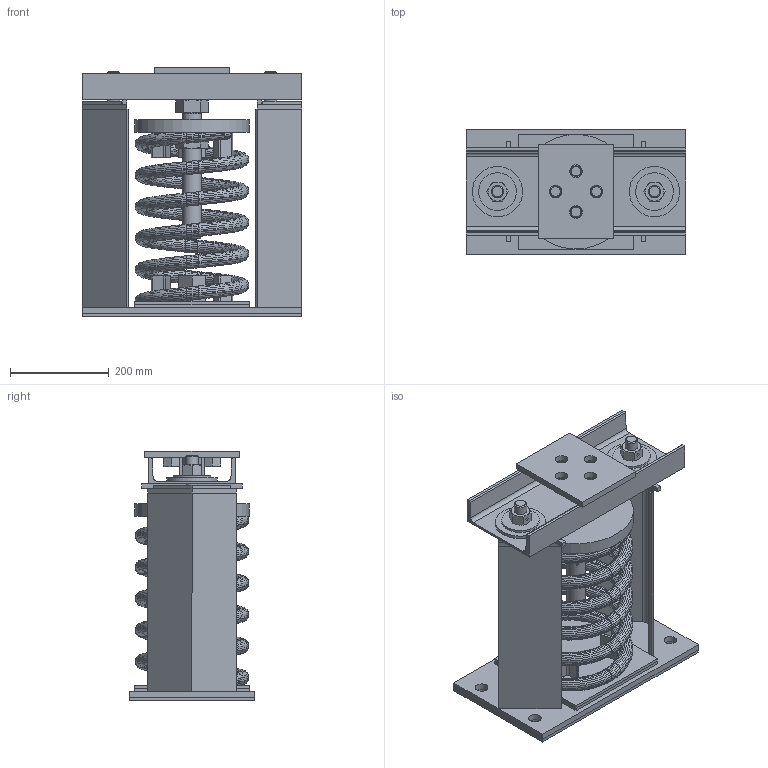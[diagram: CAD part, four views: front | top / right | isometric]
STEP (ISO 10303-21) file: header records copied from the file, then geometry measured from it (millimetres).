
FILE_DESCRIPTION(/* description */ (''),/* implementation_level */ '2;1');
FILE_NAME(/* name */ '\\Mleuckthor2\cad-proe_solids\WEBSITE FILES 05.22.13\STEP\SLR 100 SERIES\SLR-189.stp',/* time_stamp */ '2016-01-19T17:37:57-05:00',/* author */ ('rramoutar'),/* organization */ ('Mason Industries Inc.'),/* preprocessor_version */ 'ST-DEVELOPER v15.6',/* originating_system */ 'Autodesk Inventor 2015',/* authorisation */ '');
FILE_SCHEMA (('CONFIG_CONTROL_DESIGN'));
Products named in the file (1): SLR-189 PER A-24026-3
Bounding box: 444.5 x 254 x 504.82 mm (x, y, z)
Volume: 8240722.6 mm3; surface area: 2382520.4 mm2
Topology: 39 solids, 39 shells, 991 faces, 2122 edges, 1215 vertices
Faces by surface type: bspline 496, plane 292, cone 122, cylinder 78, torus 3
Full cylindrical faces by diameter (mm): 9.525 x2, 16.307 x1, 19.177 x4, 21.971 x2, 25.4 x14, 25.959 x2, 26.987 x4, 34.671 x1, 38.1 x3, 41.275 x1, 44.45 x2, 50.8 x4, 57.15 x1, 76.2 x2, 101.6 x2, 231.775 x1
Entity records: 45447 total; most frequent: CARTESIAN_POINT 27528, ORIENTED_EDGE 4050, DIRECTION 2108, EDGE_CURVE 2025, VERTEX_POINT 1187, EDGE_LOOP 1126, STYLED_ITEM 1030, B_SPLINE_CURVE_WITH_KNOTS 1000
